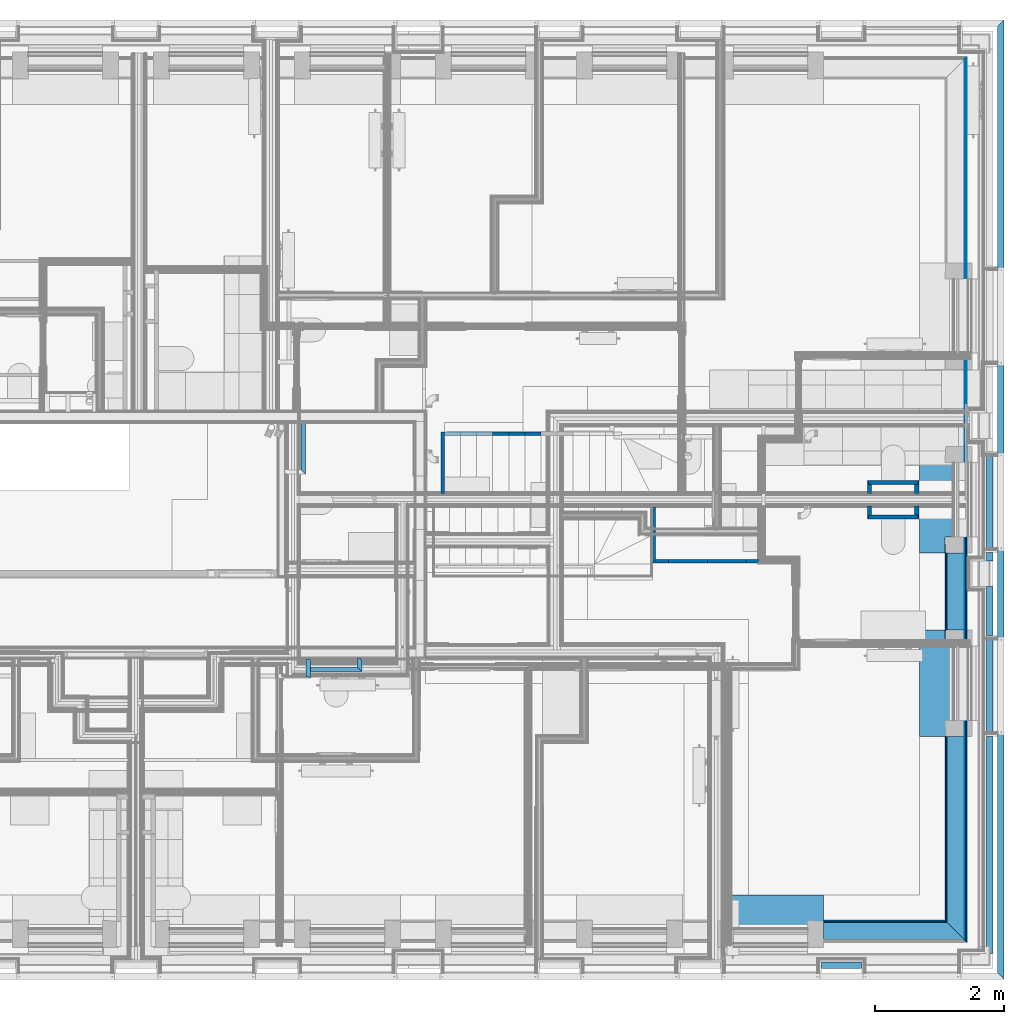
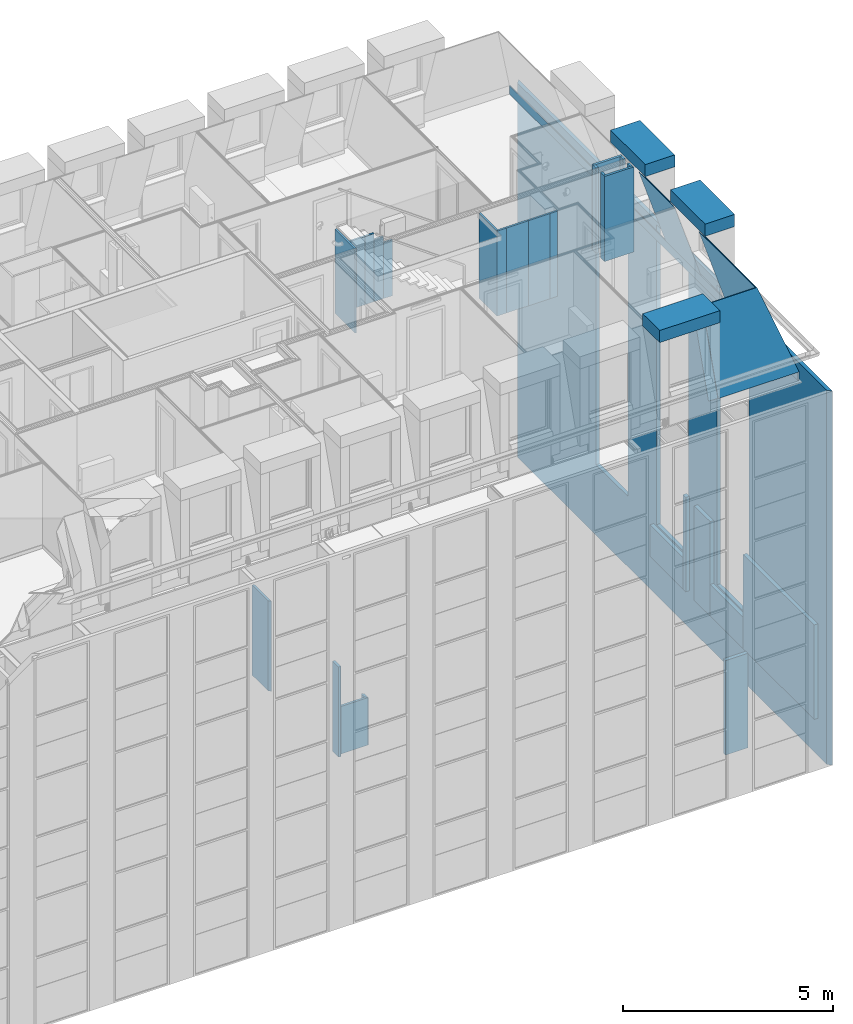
# One storey, part 7 of 169: 42 walls, 3 openings.
"""IFC2X3 building model written with IfcOpenShell, lengths in metres."""

from ifc_helpers import new_model, entity, si_unit, converted_unit, derived_unit, money_unit, direction, frame, frame_2d, origin_with_axes, place, context, subcontext, project, spatial, polyline, rectangle, outline, extrude, clip, halfspace, material, layer, layer_set, layer_usage, type_object, element, save


model = new_model("IFC2X3")

# Units and contexts
model_context = context("Model", 3, precision=1e-05, world=origin_with_axes(), true_north=direction((0.0, 1.0)))
body_context = subcontext(model_context, "Body", "Model", "MODEL_VIEW", scale=1.0)
ifc_project = project(units=[si_unit("LENGTHUNIT", "METRE"), si_unit("AREAUNIT", "SQUARE_METRE"), si_unit("VOLUMEUNIT", "CUBIC_METRE"), si_unit("ABSORBEDDOSEUNIT", "GRAY"), si_unit("AMOUNTOFSUBSTANCEUNIT", "MOLE"), si_unit("DOSEEQUIVALENTUNIT", "SIEVERT"), si_unit("ELECTRICCAPACITANCEUNIT", "FARAD"), si_unit("ELECTRICCHARGEUNIT", "COULOMB"), si_unit("ELECTRICCONDUCTANCEUNIT", "SIEMENS"), si_unit("ELECTRICCURRENTUNIT", "AMPERE"), si_unit("ELECTRICRESISTANCEUNIT", "OHM"), si_unit("ELECTRICVOLTAGEUNIT", "VOLT"), si_unit("ENERGYUNIT", "JOULE"), si_unit("FORCEUNIT", "NEWTON"), si_unit("FREQUENCYUNIT", "HERTZ"), si_unit("ILLUMINANCEUNIT", "LUX"), si_unit("INDUCTANCEUNIT", "HENRY"), si_unit("LUMINOUSFLUXUNIT", "LUMEN"), si_unit("LUMINOUSINTENSITYUNIT", "CANDELA"), si_unit("MAGNETICFLUXDENSITYUNIT", "TESLA"), si_unit("MAGNETICFLUXUNIT", "WEBER"), si_unit("MASSUNIT", "GRAM"), converted_unit("PLANEANGLEUNIT", "degree", entity("IfcReal", 0.0174532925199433), si_unit("PLANEANGLEUNIT", "RADIAN"), dimensions=[0, 0, 0, 0, 0, 0, 0]), si_unit("POWERUNIT", "WATT"), si_unit("PRESSUREUNIT", "PASCAL"), si_unit("RADIOACTIVITYUNIT", "BECQUEREL"), si_unit("SOLIDANGLEUNIT", "STERADIAN"), si_unit("THERMODYNAMICTEMPERATUREUNIT", "KELVIN"), si_unit("TIMEUNIT", "SECOND"), derived_unit("ACCELERATIONUNIT", [(si_unit("LENGTHUNIT", "METRE"), 1), (si_unit("TIMEUNIT", "SECOND"), -2)]), derived_unit("ANGULARVELOCITYUNIT", [(converted_unit("PLANEANGLEUNIT", "degree", entity("IfcReal", 0.0174532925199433), si_unit("PLANEANGLEUNIT", "RADIAN"), dimensions=[0, 0, 0, 0, 0, 0, 0]), 1), (si_unit("TIMEUNIT", "SECOND"), -1)]), derived_unit("CURVATUREUNIT", [(converted_unit("PLANEANGLEUNIT", "degree", entity("IfcReal", 0.0174532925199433), si_unit("PLANEANGLEUNIT", "RADIAN"), dimensions=[0, 0, 0, 0, 0, 0, 0]), 1), (si_unit("LENGTHUNIT", "METRE"), -1)]), derived_unit("DYNAMICVISCOSITYUNIT", [(si_unit("PRESSUREUNIT", "PASCAL"), 1), (si_unit("TIMEUNIT", "SECOND"), 1)]), derived_unit("HEATFLUXDENSITYUNIT", [(si_unit("POWERUNIT", "WATT"), 1), (si_unit("LENGTHUNIT", "METRE"), -2)]), derived_unit("HEATINGVALUEUNIT", [(si_unit("ENERGYUNIT", "JOULE"), 1), (si_unit("MASSUNIT", "GRAM"), -1)]), derived_unit("INTEGERCOUNTRATEUNIT", [(si_unit("TIMEUNIT", "SECOND"), -1)]), derived_unit("IONCONCENTRATIONUNIT", [(si_unit("MASSUNIT", "GRAM"), 1), (si_unit("VOLUMEUNIT", "CUBIC_METRE"), -1)]), derived_unit("ISOTHERMALMOISTURECAPACITYUNIT", [(si_unit("VOLUMEUNIT", "CUBIC_METRE"), 1), (si_unit("MASSUNIT", "GRAM"), -1)]), derived_unit("KINEMATICVISCOSITYUNIT", [(si_unit("AREAUNIT", "SQUARE_METRE"), 1), (si_unit("TIMEUNIT", "SECOND"), -1)]), derived_unit("LINEARFORCEUNIT", [(si_unit("FORCEUNIT", "NEWTON"), 1), (si_unit("LENGTHUNIT", "METRE"), -1)]), derived_unit("LINEARMOMENTUNIT", [(si_unit("FORCEUNIT", "NEWTON"), 1), (si_unit("LENGTHUNIT", "METRE"), -1)]), derived_unit("LINEARSTIFFNESSUNIT", [(si_unit("FORCEUNIT", "NEWTON"), 1), (si_unit("LENGTHUNIT", "METRE"), -1)]), derived_unit("LINEARVELOCITYUNIT", [(si_unit("LENGTHUNIT", "METRE"), 1), (si_unit("TIMEUNIT", "SECOND"), -1)]), derived_unit("LUMINOUSINTENSITYDISTRIBUTIONUNIT", [(si_unit("LUMINOUSINTENSITYUNIT", "CANDELA"), 1), (si_unit("LUMINOUSFLUXUNIT", "LUMEN"), -1)]), derived_unit("MASSDENSITYUNIT", [(si_unit("MASSUNIT", "GRAM"), 1), (si_unit("VOLUMEUNIT", "CUBIC_METRE"), -1)]), derived_unit("MASSFLOWRATEUNIT", [(si_unit("MASSUNIT", "GRAM"), 1), (si_unit("TIMEUNIT", "SECOND"), -1)]), derived_unit("MASSPERLENGTHUNIT", [(si_unit("MASSUNIT", "GRAM"), 1), (si_unit("LENGTHUNIT", "METRE"), -1)]), derived_unit("MODULUSOFELASTICITYUNIT", [(si_unit("FORCEUNIT", "NEWTON"), 1), (si_unit("AREAUNIT", "SQUARE_METRE"), -1)]), derived_unit("MODULUSOFLINEARSUBGRADEREACTIONUNIT", [(si_unit("FORCEUNIT", "NEWTON"), 1), (si_unit("LENGTHUNIT", "METRE"), -2)]), derived_unit("MODULUSOFROTATIONALSUBGRADEREACTIONUNIT", [(si_unit("FORCEUNIT", "NEWTON"), 1), (si_unit("LENGTHUNIT", "METRE"), 1)]), derived_unit("MODULUSOFSUBGRADEREACTIONUNIT", [(si_unit("FORCEUNIT", "NEWTON"), 1), (si_unit("VOLUMEUNIT", "CUBIC_METRE"), -1)]), derived_unit("MOISTUREDIFFUSIVITYUNIT", [(si_unit("VOLUMEUNIT", "CUBIC_METRE"), 1), (si_unit("TIMEUNIT", "SECOND"), -1)]), derived_unit("MOLECULARWEIGHTUNIT", [(si_unit("MASSUNIT", "GRAM"), 1), (si_unit("AMOUNTOFSUBSTANCEUNIT", "MOLE"), -1)]), derived_unit("PLANARFORCEUNIT", [(si_unit("FORCEUNIT", "NEWTON"), 1), (si_unit("LENGTHUNIT", "METRE"), -2)]), derived_unit("ROTATIONALFREQUENCYUNIT", [(si_unit("TIMEUNIT", "SECOND"), -1)]), derived_unit("ROTATIONALMASSUNIT", [(si_unit("MASSUNIT", "GRAM"), 1), (si_unit("LENGTHUNIT", "METRE"), 2)]), derived_unit("ROTATIONALSTIFFNESSUNIT", [(si_unit("FORCEUNIT", "NEWTON"), 1), (si_unit("LENGTHUNIT", "METRE"), 1), (converted_unit("PLANEANGLEUNIT", "degree", entity("IfcReal", 0.0174532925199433), si_unit("PLANEANGLEUNIT", "RADIAN"), dimensions=[0, 0, 0, 0, 0, 0, 0]), -1)]), derived_unit("SECTIONAREAINTEGRALUNIT", [(si_unit("LENGTHUNIT", "METRE"), 5)]), derived_unit("SECTIONMODULUSUNIT", [(si_unit("LENGTHUNIT", "METRE"), 3)]), derived_unit("SHEARMODULUSUNIT", [(si_unit("FORCEUNIT", "NEWTON"), 1), (si_unit("AREAUNIT", "SQUARE_METRE"), -1)]), derived_unit("SOUNDPOWERUNIT", [(si_unit("ENERGYUNIT", "JOULE"), 1), (si_unit("TIMEUNIT", "SECOND"), -1)]), derived_unit("SPECIFICHEATCAPACITYUNIT", [(si_unit("FORCEUNIT", "NEWTON"), 1), (si_unit("MASSUNIT", "GRAM"), -1), (si_unit("THERMODYNAMICTEMPERATUREUNIT", "KELVIN"), -1)]), derived_unit("TEMPERATUREGRADIENTUNIT", [(si_unit("THERMODYNAMICTEMPERATUREUNIT", "KELVIN"), 1), (si_unit("LENGTHUNIT", "METRE"), -1)]), derived_unit("THERMALADMITTANCEUNIT", [(si_unit("POWERUNIT", "WATT"), 1), (si_unit("AREAUNIT", "SQUARE_METRE"), -1), (si_unit("THERMODYNAMICTEMPERATUREUNIT", "KELVIN"), -1)]), derived_unit("THERMALCONDUCTANCEUNIT", [(si_unit("POWERUNIT", "WATT"), 1), (si_unit("LENGTHUNIT", "METRE"), -1), (si_unit("THERMODYNAMICTEMPERATUREUNIT", "KELVIN"), -1)]), derived_unit("THERMALEXPANSIONCOEFFICIENTUNIT", [(si_unit("THERMODYNAMICTEMPERATUREUNIT", "KELVIN"), -1)]), derived_unit("THERMALRESISTANCEUNIT", [(si_unit("AREAUNIT", "SQUARE_METRE"), 1), (si_unit("POWERUNIT", "WATT"), -1)]), derived_unit("THERMALTRANSMITTANCEUNIT", [(si_unit("POWERUNIT", "WATT"), 1), (si_unit("AREAUNIT", "SQUARE_METRE"), -1), (si_unit("THERMODYNAMICTEMPERATUREUNIT", "KELVIN"), -1)]), derived_unit("TORQUEUNIT", [(si_unit("FORCEUNIT", "NEWTON"), 1), (si_unit("LENGTHUNIT", "METRE"), 1)]), derived_unit("VAPORPERMEABILITYUNIT", [(si_unit("MASSUNIT", "GRAM"), 1), (si_unit("TIMEUNIT", "SECOND"), -1)]), derived_unit("VOLUMETRICFLOWRATEUNIT", [(si_unit("VOLUMEUNIT", "CUBIC_METRE"), 1), (si_unit("TIMEUNIT", "SECOND"), -1)]), derived_unit("WARPINGCONSTANTUNIT", [(si_unit("LENGTHUNIT", "METRE"), 6)]), derived_unit("WARPINGMOMENTUNIT", [(si_unit("FORCEUNIT", "NEWTON"), 1), (si_unit("LENGTHUNIT", "METRE"), 2)]), money_unit("GBP")], contexts=[model_context])

# Site, building, storey
site_placement = place(None, origin_with_axes())
site = spatial("IfcSite", under=ifc_project, at=site_placement, Name="Site", CompositionType="ELEMENT")
building_placement = place(site_placement, origin_with_axes())
building = spatial("IfcBuilding", under=site, at=building_placement, Name="Building01", CompositionType="ELEMENT")
storey_placement = place(building_placement, frame((0.0, 0.0, 5.15), z_axis=(0.0, 0.0, 1.0), x_axis=(1.0, 0.0, 0.0)))
storey = spatial("IfcBuildingStorey", under=building, at=storey_placement, Name="1F", CompositionType="ELEMENT", Elevation=5.15)

# Wall, openings
ifc_material_1 = material(Name="A_BSUK_WallsExternal_Brick")
ifc_layer_1 = layer(ifc_material_1, 0.1, ventilated=False)
ifc_layer_set_1 = layer_set([ifc_layer_1])
ifc_layer_usage_1 = layer_usage(ifc_layer_set_1, "AXIS2", "POSITIVE", 0.0)
wall_type_1 = type_object("IfcWallType", Name="A-Walls-ExternalBrick", PredefinedType="NOTDEFINED")
wall_1_placement = place(storey_placement, frame((26.88, 0.1, -1.18), z_axis=(0.0, 0.0, 1.0), x_axis=(0.0, 1.0, 0.0)))
wall_1 = element("IfcWallStandardCase", 1, at=wall_1_placement, inside=storey, type_object=wall_type_1, material=ifc_layer_usage_1, Name="A-Walls-ExternalBrick", ObjectType="A-Walls-ExternalBrick", context=body_context, shape_type="SweptSolid", body=[
    extrude(outline(polyline([(14.7, 0.0), (0.0, 0.0), (-0.1, -0.1), (14.8, -0.1), (14.7, 0.0)])), origin_with_axes(), (0.0, 0.0, 1.0), 10.850238),
])
opening_1_placement = place(wall_1_placement, frame((9.43718, -0.1, 2.045508), z_axis=(0.0, 0.0, 1.0), x_axis=(1.0, 0.0, 0.0)))
element("IfcOpeningElement", 2, at=opening_1_placement, cuts=wall_1, Name="Opening", ObjectType="Opening", context=body_context, shape_type="SweptSolid", body=[
    extrude(rectangle(XDim=1.52, YDim=8.7, at=frame_2d((-0.76, 4.35), x_axis=(-1.0, 0.0))), frame((0.0, 0.0, 0.0), z_axis=(0.0, 1.0, 0.0), x_axis=(-1.0, 0.0, 0.0)), (0.0, 0.0, 1.0), 0.1),
])
opening_2_placement = place(wall_1_placement, frame((3.69718, -0.1, 2.045508), z_axis=(0.0, 0.0, 1.0), x_axis=(1.0, 0.0, 0.0)))
element("IfcOpeningElement", 3, at=opening_2_placement, cuts=wall_1, Name="Opening", ObjectType="Opening", context=body_context, shape_type="SweptSolid", body=[
    extrude(rectangle(XDim=1.52, YDim=8.7, at=frame_2d((-0.76, 4.35), x_axis=(-1.0, 0.0))), frame((0.0, 0.0, 0.0), z_axis=(0.0, 1.0, 0.0), x_axis=(-1.0, 0.0, 0.0)), (0.0, 0.0, 1.0), 0.1),
])
opening_3_placement = place(wall_1_placement, frame((6.557326, -0.1, 2.050108), z_axis=(0.0, 0.0, 1.0), x_axis=(1.0, 0.0, 0.0)))
element("IfcOpeningElement", 4, at=opening_3_placement, cuts=wall_1, Name="Opening", ObjectType="Opening", context=body_context, shape_type="SweptSolid", body=[
    extrude(rectangle(XDim=1.52, YDim=8.7, at=frame_2d((-0.76, 4.35), x_axis=(-1.0, 0.0))), frame((0.0, 0.0, 0.0), z_axis=(0.0, 1.0, 0.0), x_axis=(-1.0, 0.0, 0.0)), (0.0, 0.0, 1.0), 0.1),
])

# Walls
ifc_material_2 = material(Name="A_BSUK_WallsExternal_Block")
ifc_layer_2 = layer(ifc_material_2, 0.1, ventilated=False)
ifc_layer_set_2 = layer_set([ifc_layer_2])
ifc_layer_usage_2 = layer_usage(ifc_layer_set_2, "AXIS2", "POSITIVE", 0.0)
wall_type_2 = type_object("IfcWallType", Name="A-Walls-ExternalBlock", PredefinedType="NOTDEFINED")
wall_2_placement = place(storey_placement, frame((24.767, 0.27, 0.0), z_axis=(0.0, 0.0, 1.0), x_axis=(-1.0, 0.0, 0.0)))
element("IfcWallStandardCase", 5, at=wall_2_placement, inside=storey, type_object=wall_type_2, material=ifc_layer_usage_2, Name="A-Walls-ExternalBlock", ObjectType="A-Walls-ExternalBlock", context=body_context, shape_type="SweptSolid", body=[
    extrude(rectangle(XDim=0.624, YDim=0.1, at=frame_2d((0.312, 0.05), x_axis=(-1.0, 0.0))), origin_with_axes(), (0.0, 0.0, 1.0), 2.74),
])
wall_3_placement = place(storey_placement, frame((26.71, 3.77418, 0.0), z_axis=(0.0, 0.0, 1.0), x_axis=(0.0, -1.0, 0.0)))
element("IfcWallStandardCase", 6, at=wall_3_placement, inside=storey, type_object=wall_type_2, material=ifc_layer_usage_2, Name="A-Walls-ExternalBlock", ObjectType="A-Walls-ExternalBlock", context=body_context, shape_type="SweptSolid", body=[
    extrude(rectangle(XDim=0.1, YDim=3.37418, at=frame_2d((1.68709, 0.05), x_axis=(0.0, -1.0))), origin_with_axes(), (0.0, 0.0, 1.0), 2.74),
])
wall_4_placement = place(storey_placement, frame((26.71, 6.634304, 0.0), z_axis=(0.0, 0.0, 1.0), x_axis=(0.0, -1.0, 0.0)))
element("IfcWallStandardCase", 7, at=wall_4_placement, inside=storey, type_object=wall_type_2, material=ifc_layer_usage_2, Name="A-Walls-ExternalBlock", ObjectType="A-Walls-ExternalBlock", context=body_context, shape_type="SweptSolid", body=[
    extrude(rectangle(XDim=0.1, YDim=0.134304, at=frame_2d((0.067152, 0.05), x_axis=(0.0, -1.0))), origin_with_axes(), (0.0, 0.0, 1.0), 2.74),
])
wall_5_placement = place(storey_placement, frame((26.71, 6.1, 0.0), z_axis=(0.0, 0.0, 1.0), x_axis=(0.0, -1.0, 0.0)))
element("IfcWallStandardCase", 8, at=wall_5_placement, inside=storey, type_object=wall_type_2, material=ifc_layer_usage_2, Name="A-Walls-ExternalBlock", ObjectType="A-Walls-ExternalBlock", context=body_context, shape_type="SweptSolid", body=[
    extrude(rectangle(XDim=0.75982, YDim=0.1, at=frame_2d((0.37991, 0.05), x_axis=(-1.0, 0.0))), origin_with_axes(), (0.0, 0.0, 1.0), 2.74),
])
wall_6_placement = place(storey_placement, frame((26.71, 5.34018, 0.0), z_axis=(0.0, 0.0, 1.0), x_axis=(0.0, -1.0, 0.0)))
element("IfcWallStandardCase", 9, at=wall_6_placement, inside=storey, type_object=wall_type_2, material=ifc_layer_usage_2, Name="A-Walls-ExternalBlock", ObjectType="A-Walls-ExternalBlock", context=body_context, shape_type="SweptSolid", body=[
    extrude(rectangle(XDim=1.566, YDim=0.1, at=frame_2d((0.783, 0.05), x_axis=(1.0, 0.0))), origin_with_axes(), (0.0, 0.0, 1.0), 0.915),
])
wall_7_placement = place(storey_placement, frame((26.71, 8.200304, 0.0), z_axis=(0.0, 0.0, 1.0), x_axis=(0.0, -1.0, 0.0)))
element("IfcWallStandardCase", 10, at=wall_7_placement, inside=storey, type_object=wall_type_2, material=ifc_layer_usage_2, Name="A-Walls-ExternalBlock", ObjectType="A-Walls-ExternalBlock", context=body_context, shape_type="SweptSolid", body=[
    extrude(rectangle(XDim=1.565978, YDim=0.1, at=frame_2d((0.782989, 0.05), x_axis=(1.0, 0.0))), origin_with_axes(), (0.0, 0.0, 1.0), 0.915),
])
ifc_material_3 = material(Name="A_BSUK_WallsInternal")
ifc_layer_3 = layer(ifc_material_3, 0.025, ventilated=False)
ifc_layer_set_3 = layer_set([ifc_layer_3])
ifc_layer_usage_3 = layer_usage(ifc_layer_set_3, "AXIS2", "POSITIVE", 0.0)
wall_type_3 = type_object("IfcWallType", Name="A-Walls-Internal", PredefinedType="NOTDEFINED")
wall_8_placement = place(storey_placement, frame((26.4012, 7.45, 9.83), z_axis=(0.0, 0.0, 1.0), x_axis=(0.0, -1.0, 0.0)))
element("IfcWallStandardCase", 11, at=wall_8_placement, inside=storey, type_object=wall_type_3, material=ifc_layer_usage_3, Name="7C", ObjectType="A-Walls-Internal", context=body_context, shape_type="SweptSolid", body=[
    extrude(outline(polyline([(6.8712, 0.0), (0.0, 0.0), (0.0, -0.025), (6.8462, -0.025), (6.8712, 0.0)])), origin_with_axes(), (0.0, 0.0, 1.0), 0.25),
])
ifc_layer_4 = layer(ifc_material_3, 0.05, ventilated=False)
ifc_layer_set_4 = layer_set([ifc_layer_4])
ifc_layer_usage_4 = layer_usage(ifc_layer_set_4, "AXIS2", "POSITIVE", 0.0)
wall_9_placement = place(storey_placement, frame((18.289976, 7.549915, 9.83), z_axis=(0.0, 0.0, 1.0), x_axis=(0.0, 1.0, 0.0)))
element("IfcWallStandardCase", 12, at=wall_9_placement, inside=storey, type_object=wall_type_3, material=ifc_layer_usage_4, Name="A-Walls-Internal", ObjectType="A-Walls-Internal", context=body_context, shape_type="SweptSolid", body=[
    extrude(rectangle(XDim=0.05, YDim=0.95, at=frame_2d((0.475, 0.025), x_axis=(0.0, -1.0))), origin_with_axes(), (0.0, 0.0, 1.0), 2.443),
])
wall_10_placement = place(storey_placement, frame((19.039976, 8.449915, 9.83), z_axis=(0.0, 0.0, 1.0), x_axis=(1.0, 0.0, 0.0)))
element("IfcWallStandardCase", 13, at=wall_10_placement, inside=storey, type_object=wall_type_3, material=ifc_layer_usage_4, Name="A-Walls-Internal", ObjectType="A-Walls-Internal", context=body_context, shape_type="SweptSolid", body=[
    extrude(rectangle(XDim=0.25, YDim=0.05, at=frame_2d((0.125, 0.025), x_axis=(1.0, 0.0))), origin_with_axes(), (0.0, 0.0, 1.0), 1.98),
])
wall_11_placement = place(storey_placement, frame((18.289976, 8.449915, 9.83), z_axis=(0.0, 0.0, 1.0), x_axis=(1.0, 0.0, 0.0)))
element("IfcWallStandardCase", 14, at=wall_11_placement, inside=storey, type_object=wall_type_3, material=ifc_layer_usage_4, Name="A-Walls-Internal", ObjectType="A-Walls-Internal", context=body_context, shape_type="SweptSolid", body=[
    extrude(rectangle(XDim=0.05, YDim=0.75, at=frame_2d((0.375, 0.025), x_axis=(0.0, -1.0))), origin_with_axes(), (0.0, 0.0, 1.0), 1.98),
])
wall_12_placement = place(storey_placement, frame((19.289976, 8.449915, 9.83), z_axis=(0.0, 0.0, 1.0), x_axis=(1.0, 0.0, 0.0)))
element("IfcWallStandardCase", 15, at=wall_12_placement, inside=storey, type_object=wall_type_3, material=ifc_layer_usage_4, Name="A-Walls-Internal", ObjectType="A-Walls-Internal", context=body_context, shape_type="SweptSolid", body=[
    extrude(rectangle(XDim=0.25, YDim=0.05, at=frame_2d((0.125, 0.025), x_axis=(1.0, 0.0))), origin_with_axes(), (0.0, 0.0, 1.0), 1.8),
])
wall_13_placement = place(storey_placement, frame((19.539976, 8.449915, 9.83), z_axis=(0.0, 0.0, 1.0), x_axis=(1.0, 0.0, 0.0)))
element("IfcWallStandardCase", 16, at=wall_13_placement, inside=storey, type_object=wall_type_3, material=ifc_layer_usage_4, Name="A-Walls-Internal", ObjectType="A-Walls-Internal", context=body_context, shape_type="SweptSolid", body=[
    extrude(rectangle(XDim=0.25, YDim=0.05, at=frame_2d((0.125, 0.025), x_axis=(1.0, 0.0))), origin_with_axes(), (0.0, 0.0, 1.0), 1.62),
])
wall_14_placement = place(storey_placement, frame((21.51844, 7.334915, 9.83), z_axis=(0.0, 0.0, 1.0), x_axis=(0.0, -1.0, 0.0)))
element("IfcWallStandardCase", 17, at=wall_14_placement, inside=storey, type_object=wall_type_3, material=ifc_layer_usage_4, Name="A-Walls-Internal", ObjectType="A-Walls-Internal", context=body_context, shape_type="SweptSolid", body=[
    extrude(outline(polyline([(0.81483, 0.05), (0.0, 0.05), (0.0, 0.0), (0.86483, 0.0), (0.81483, 0.05)])), origin_with_axes(), (0.0, 0.0, 1.0), 2.468),
])
wall_15_placement = place(storey_placement, frame((21.51844, 6.470085, 9.83), z_axis=(0.0, 0.0, 1.0), x_axis=(1.0, 0.0, 0.0)))
element("IfcWallStandardCase", 18, at=wall_15_placement, inside=storey, type_object=wall_type_3, material=ifc_layer_usage_4, Name="A-Walls-Internal", ObjectType="A-Walls-Internal", context=body_context, shape_type="SweptSolid", body=[
    extrude(outline(polyline([(0.05, 0.05), (0.0, 0.0), (0.255191, 0.0), (0.255191, 0.05), (0.05, 0.05)])), origin_with_axes(), (0.0, 0.0, 1.0), 2.468),
])
for number, where, z_axis, x_axis, name in (
    (19, (21.773631, 6.470085, 9.83), (0.0, 0.0, 1.0), (1.0, 0.0, 0.0), "A-Walls-Internal"),
    (20, (22.373631, 6.470085, 9.83), (0.0, 0.0, 1.0), (1.0, 0.0, 0.0), "A-Walls-Internal"),
):
    element("IfcWallStandardCase", number, at=place(storey_placement, frame(where, z_axis=z_axis, x_axis=x_axis)), inside=storey, type_object=wall_type_3, material=ifc_layer_usage_4, Name=name, ObjectType="A-Walls-Internal", context=body_context, shape_type="SweptSolid", body=[
        extrude(rectangle(XDim=0.6, YDim=0.05, at=frame_2d((0.3, 0.025), x_axis=(1.0, 0.0))), origin_with_axes(), (0.0, 0.0, 1.0), 2.468),
    ])
wall_16_placement = place(storey_placement, frame((22.973631, 6.470085, 9.83), z_axis=(0.0, 0.0, 1.0), x_axis=(1.0, 0.0, 0.0)))
element("IfcWallStandardCase", 21, at=wall_16_placement, inside=storey, type_object=wall_type_3, material=ifc_layer_usage_4, Name="A-Walls-Internal", ObjectType="A-Walls-Internal", context=body_context, shape_type="SweptSolid", body=[
    extrude(rectangle(XDim=0.205191, YDim=0.05, at=frame_2d((0.102595, 0.025), x_axis=(-1.0, 0.0))), origin_with_axes(), (0.0, 0.0, 1.0), 2.468),
])
ifc_layer_5 = layer(ifc_material_3, 0.015, ventilated=False)
ifc_layer_set_5 = layer_set([ifc_layer_5])
ifc_layer_usage_5 = layer_usage(ifc_layer_set_5, "AXIS2", "POSITIVE", 0.0)
wall_17_placement = place(storey_placement, frame((26.4012, 14.3062, 9.83), z_axis=(0.0, 0.0, 1.0), x_axis=(0.0, -1.0, 0.0)))
element("IfcWallStandardCase", 22, at=wall_17_placement, inside=storey, type_object=wall_type_3, material=ifc_layer_usage_5, Name="7C", ObjectType="A-Walls-Internal", context=body_context, shape_type="SweptSolid", body=[
    extrude(rectangle(XDim=13.7124, YDim=0.015, at=frame_2d((6.8562, -0.0075), x_axis=(-1.0, 0.0))), origin_with_axes(), (0.0, 0.0, 1.0), 0.25),
])
wall_18_placement = place(storey_placement, frame((26.3862, 14.2912, 9.83), z_axis=(0.0, 0.0, 1.0), x_axis=(0.0, -1.0, 0.0)))
element("IfcWallStandardCase", 23, at=wall_18_placement, inside=storey, type_object=wall_type_3, material=ifc_layer_usage_5, Name="7C", ObjectType="A-Walls-Internal", context=body_context, shape_type="SweptSolid", body=[
    extrude(rectangle(XDim=13.6824, YDim=0.015, at=frame_2d((6.8412, -0.0075), x_axis=(-1.0, 0.0))), origin_with_axes(), (0.0, 0.0, 1.0), 0.25),
])
ifc_material_4 = material(Name="A_BSUK_Walls_Timber")
ifc_layer_6 = layer(ifc_material_4, 0.015, ventilated=False)
ifc_material_5 = material(Name="A_BSUK_OpeningsClearance")
ifc_layer_7 = layer(ifc_material_5, 0.05, ventilated=False)
ifc_layer_set_6 = layer_set([ifc_layer_6, ifc_layer_7])
ifc_layer_usage_6 = layer_usage(ifc_layer_set_6, "AXIS2", "POSITIVE", 0.0)
wall_type_4 = type_object("IfcWallType", Name="SHE_A-Walls_Type05c_PreWallShell_65mm", PredefinedType="NOTDEFINED")
wall_19_placement = place(storey_placement, frame((16.9425, 4.845, 0.0), z_axis=(0.0, 0.0, 1.0), x_axis=(0.0, 1.0, 0.0)))
element("IfcWallStandardCase", 24, at=wall_19_placement, inside=storey, type_object=wall_type_4, material=ifc_layer_usage_6, Name="5C", ObjectType="SHE_A-Walls_Type05c_PreWallShell_65mm", context=body_context, shape_type="SweptSolid", body=[
    extrude(outline(polyline([(0.12, -0.05), (0.15, -0.05), (0.15, 0.0), (0.0, 0.0), (-0.065, -0.065), (0.12, -0.065), (0.12, -0.05)])), origin_with_axes(), (0.0, 0.0, 1.0), 1.375),
])
wall_20_placement = place(storey_placement, frame((16.2075, 4.845, 0.0), z_axis=(0.0, 0.0, 1.0), x_axis=(1.0, 0.0, 0.0)))
element("IfcWallStandardCase", 25, at=wall_20_placement, inside=storey, type_object=wall_type_4, material=ifc_layer_usage_6, Name="5C", ObjectType="SHE_A-Walls_Type05c_PreWallShell_65mm", context=body_context, shape_type="SweptSolid", body=[
    extrude(outline(polyline([(0.735, 0.0), (0.0, 0.0), (0.0, -0.065), (0.8, -0.065), (0.735, 0.0)])), origin_with_axes(), (0.0, 0.0, 1.0), 1.375),
])
wall_21_placement = place(storey_placement, frame((16.065, 7.915, 0.0), z_axis=(0.0, 0.0, 1.0), x_axis=(0.0, 1.0, 0.0)))
element("IfcWallStandardCase", 26, at=wall_21_placement, inside=storey, type_object=wall_type_4, material=ifc_layer_usage_6, Name="5C", ObjectType="SHE_A-Walls_Type05c_PreWallShell_65mm", context=body_context, shape_type="SweptSolid", body=[
    extrude(outline(polyline([(0.72, -0.05), (0.75, -0.05), (0.75, 0.0), (0.0, 0.0), (-0.065, -0.065), (0.72, -0.065), (0.72, -0.05)])), origin_with_axes(), (0.0, 0.0, 1.0), 2.615),
])
wall_22_placement = place(storey_placement, frame((16.1425, 4.695, 0.0), z_axis=(0.0, 0.0, 1.0), x_axis=(0.0, 1.0, 0.0)))
element("IfcWallStandardCase", 27, at=wall_22_placement, inside=storey, type_object=wall_type_4, material=ifc_layer_usage_6, Name="5C", ObjectType="SHE_A-Walls_Type05c_PreWallShell_65mm", context=body_context, shape_type="SweptSolid", body=[
    extrude(outline(polyline([(0.285, 0.0), (0.0, 0.0), (0.0, -0.05), (-0.015, -0.05), (-0.015, -0.065), (0.285, -0.065), (0.285, 0.0)])), origin_with_axes(), (0.0, 0.0, 1.0), 2.615),
])
ifc_layer_set_7 = layer_set([ifc_layer_7, ifc_layer_6])
ifc_layer_usage_7 = layer_usage(ifc_layer_set_7, "AXIS2", "POSITIVE", 0.0)
wall_23_placement = place(storey_placement, frame((24.873821, 7.684913, 9.83), z_axis=(0.0, 0.0, 1.0), x_axis=(1.0, 0.0, 0.0)))
element("IfcWallStandardCase", 28, at=wall_23_placement, inside=storey, type_object=wall_type_4, material=ifc_layer_usage_7, Name="5C", ObjectType="SHE_A-Walls_Type05c_PreWallShell_65mm", context=body_context, shape_type="SweptSolid", body=[
    extrude(outline(polyline([(0.77, 0.05), (0.785, 0.05), (0.785, 0.065), (-0.015, 0.065), (-0.015, 0.05), (0.0, 0.05), (0.0, 0.0), (0.77, 0.0), (0.77, 0.05)])), origin_with_axes(), (0.0, 0.0, 1.0), 2.468),
])
wall_24_placement = place(storey_placement, frame((24.923821, 7.549915, 9.83), z_axis=(0.0, 0.0, 1.0), x_axis=(0.0, 1.0, 0.0)))
element("IfcWallStandardCase", 29, at=wall_24_placement, inside=storey, type_object=wall_type_4, material=ifc_layer_usage_7, Name="5C", ObjectType="SHE_A-Walls_Type05c_PreWallShell_65mm", context=body_context, shape_type="SweptSolid", body=[
    extrude(outline(polyline([(0.134998, 0.05), (0.184998, 0.05), (0.184998, 0.065), (0.0, 0.065), (0.0, 0.0), (0.134998, 0.0), (0.134998, 0.05)])), origin_with_axes(), (0.0, 0.0, 1.0), 2.468),
])
wall_25_placement = place(storey_placement, frame((25.593821, 7.549915, 9.83), z_axis=(0.0, 0.0, 1.0), x_axis=(0.0, 1.0, 0.0)))
element("IfcWallStandardCase", 30, at=wall_25_placement, inside=storey, type_object=wall_type_4, material=ifc_layer_usage_6, Name="5C", ObjectType="SHE_A-Walls_Type05c_PreWallShell_65mm", context=body_context, shape_type="SweptSolid", body=[
    extrude(outline(polyline([(0.134998, -0.05), (0.134998, 0.0), (0.0, 0.0), (0.0, -0.065), (0.184998, -0.065), (0.184998, -0.05), (0.134998, -0.05)])), origin_with_axes(), (0.0, 0.0, 1.0), 2.468),
])
placement_1 = place(storey_placement, frame((24.873821, 7.214966, 9.83), z_axis=(0.0, 0.0, 1.0), x_axis=(1.0, 0.0, 0.0)))
element("IfcWallStandardCase", 31, at=placement_1, inside=storey, type_object=wall_type_4, material=ifc_layer_usage_6, Name="5C", ObjectType="SHE_A-Walls_Type05c_PreWallShell_65mm", context=body_context, shape_type="SweptSolid", body=[
    extrude(outline(polyline([(0.77, -0.05), (0.77, 0.0), (0.0, 0.0), (0.0, -0.05), (-0.015, -0.05), (-0.015, -0.065), (0.785, -0.065), (0.785, -0.05), (0.77, -0.05)])), origin_with_axes(), (0.0, 0.0, 1.0), 2.468),
])
placement_2 = place(storey_placement, frame((24.923821, 7.349915, 9.83), z_axis=(0.0, 0.0, 1.0), x_axis=(0.0, -1.0, 0.0)))
element("IfcWallStandardCase", 32, at=placement_2, inside=storey, type_object=wall_type_4, material=ifc_layer_usage_6, Name="5C", ObjectType="SHE_A-Walls_Type05c_PreWallShell_65mm", context=body_context, shape_type="SweptSolid", body=[
    extrude(outline(polyline([(0.134949, -0.05), (0.134949, 0.0), (0.0, 0.0), (0.0, -0.065), (0.184949, -0.065), (0.184949, -0.05), (0.134949, -0.05)])), origin_with_axes(), (0.0, 0.0, 1.0), 2.468),
])
placement_3 = place(storey_placement, frame((25.593821, 7.349915, 9.83), z_axis=(0.0, 0.0, 1.0), x_axis=(0.0, -1.0, 0.0)))
element("IfcWallStandardCase", 33, at=placement_3, inside=storey, type_object=wall_type_4, material=ifc_layer_usage_7, Name="5C", ObjectType="SHE_A-Walls_Type05c_PreWallShell_65mm", context=body_context, shape_type="SweptSolid", body=[
    extrude(outline(polyline([(0.134949, 0.05), (0.184949, 0.05), (0.184949, 0.065), (0.0, 0.065), (0.0, 0.0), (0.134949, 0.0), (0.134949, 0.05)])), origin_with_axes(), (0.0, 0.0, 1.0), 2.468),
])
element("IfcWallStandardCase", 34, at=placement_1, inside=storey, type_object=wall_type_4, material=ifc_layer_usage_6, Name="5C", ObjectType="SHE_A-Walls_Type05c_PreWallShell_65mm", context=body_context, shape_type="SweptSolid", body=[
    extrude(outline(polyline([(0.77, -0.05), (0.77, 0.0), (0.0, 0.0), (0.0, -0.05), (-0.015, -0.05), (-0.015, -0.065), (0.785, -0.065), (0.785, -0.05), (0.77, -0.05)])), origin_with_axes(), (0.0, 0.0, 1.0), 2.468),
])
element("IfcWallStandardCase", 35, at=placement_2, inside=storey, type_object=wall_type_4, material=ifc_layer_usage_6, Name="5C", ObjectType="SHE_A-Walls_Type05c_PreWallShell_65mm", context=body_context, shape_type="SweptSolid", body=[
    extrude(outline(polyline([(0.134949, -0.05), (0.134949, 0.0), (0.0, 0.0), (0.0, -0.065), (0.184949, -0.065), (0.184949, -0.05), (0.134949, -0.05)])), origin_with_axes(), (0.0, 0.0, 1.0), 2.468),
])
element("IfcWallStandardCase", 36, at=placement_3, inside=storey, type_object=wall_type_4, material=ifc_layer_usage_7, Name="5C", ObjectType="SHE_A-Walls_Type05c_PreWallShell_65mm", context=body_context, shape_type="SweptSolid", body=[
    extrude(outline(polyline([(0.134949, 0.05), (0.184949, 0.05), (0.184949, 0.065), (0.0, 0.065), (0.0, 0.0), (0.134949, 0.0), (0.134949, 0.05)])), origin_with_axes(), (0.0, 0.0, 1.0), 2.468),
])
ifc_material_6 = material(Name="A_BSUK_Roofs")
wall_type_5 = type_object("IfcWallType", Name="A-Walls-ExternalBlock", PredefinedType="NOTDEFINED")
wall_32_placement = place(storey_placement, frame((22.530024, 1.31, 12.679998), z_axis=(1.0, 0.0, 0.0), x_axis=(0.0, -1.0, 0.0)))
element("IfcWall", 37, at=wall_32_placement, inside=storey, type_object=wall_type_5, material=ifc_material_6, Name="7C", ObjectType="A-Walls-ExternalBlock", context=body_context, shape_type="SweptSolid", body=[
    extrude(rectangle(XDim=0.81, YDim=0.349999, at=frame_2d((0.405, 0.174999), x_axis=(1.0, 0.0))), origin_with_axes(), (0.0, 0.0, 1.0), 1.649951),
])
wall_33_placement = place(storey_placement, frame((26.480061, 8.274915, 12.679998), z_axis=(0.0, -1.0, 0.0), x_axis=(-1.0, 0.0, 0.0)))
element("IfcWall", 38, at=wall_33_placement, inside=storey, type_object=wall_type_5, material=ifc_material_6, Name="7C", ObjectType="A-Walls-ExternalBlock", context=body_context, shape_type="SweptSolid", body=[
    extrude(rectangle(XDim=0.81, YDim=0.349999, at=frame_2d((0.405, 0.174999), x_axis=(1.0, 0.0))), origin_with_axes(), (0.0, 0.0, 1.0), 1.65),
])
wall_34_placement = place(storey_placement, frame((26.480061, 5.424915, 12.679999), z_axis=(0.0, -1.0, 0.0), x_axis=(-1.0, 0.0, 0.0)))
element("IfcWall", 39, at=wall_34_placement, inside=storey, type_object=wall_type_5, material=ifc_material_6, Name="7C", ObjectType="A-Walls-ExternalBlock", context=body_context, shape_type="SweptSolid", body=[
    extrude(rectangle(XDim=0.81, YDim=0.35, at=frame_2d((0.405, 0.175), x_axis=(1.0, 0.0))), origin_with_axes(), (0.0, 0.0, 1.0), 1.65),
])
wall_type_6 = type_object("IfcWallType", Name="A-Walls-Internal", PredefinedType="NOTDEFINED")
wall_35_placement = place(storey_placement, frame((26.4012, 3.774915, 10.08), z_axis=(-0.30901699, 0.0, 0.95105652), x_axis=(0.0, -1.0, 0.0)))
element("IfcWall", 40, at=wall_35_placement, inside=storey, type_object=wall_type_6, material=ifc_material_3, Name="7C", ObjectType="A-Walls-Internal", context=body_context, shape_type="Clipping", body=[
    clip(extrude(outline(polyline([(3.196115, 0.0), (0.0, 0.0), (0.0, -0.015), (3.181849, -0.015), (3.196115, 0.0)])), origin_with_axes(), (0.0, 0.0, 1.0), 2.373987), halfspace(frame((1.598058, -1.519843, 0.493827), z_axis=(-0.70710678, 0.67249851, -0.21850801), x_axis=(-0.68915176, -0.72461704, 0.0)), True)),
])
wall_36_placement = place(storey_placement, frame((26.4012, 0.5788, 10.08), z_axis=(0.0, 0.30901699, 0.95105652), x_axis=(-1.0, 0.0, 0.0)))
element("IfcWall", 41, at=wall_36_placement, inside=storey, type_object=wall_type_6, material=ifc_material_3, Name="7C", ObjectType="A-Walls-Internal", context=body_context, shape_type="Clipping", body=[
    clip(extrude(outline(polyline([(2.221224, 0.0), (0.0, 0.0), (0.014266, -0.015), (2.221224, -0.015), (2.221224, 0.0)])), origin_with_axes(), (0.0, 0.0, 1.0), 2.373987), halfspace(frame((0.0, 0.0, 0.0), z_axis=(0.70710678, 0.67249851, -0.21850801), x_axis=(-0.68915176, 0.72461704, 0.0)), True)),
])
wall_37_placement = place(storey_placement, frame((26.4012, 6.624964, 10.08), z_axis=(-0.30901699, 0.0, 0.95105652), x_axis=(0.0, -1.0, 0.0)))
element("IfcWall", 42, at=wall_37_placement, inside=storey, type_object=wall_type_6, material=ifc_material_3, Name="7C", ObjectType="A-Walls-Internal", context=body_context, shape_type="SweptSolid", body=[
    extrude(rectangle(XDim=1.200049, YDim=0.015, at=frame_2d((0.600024, -0.0075), x_axis=(-1.0, 0.0))), origin_with_axes(), (0.0, 0.0, 1.0), 2.373987),
])
wall_38_placement = place(storey_placement, frame((26.385572, 0.594428, 10.079557), z_axis=(0.0, 0.30901699, 0.95105652), x_axis=(-1.0, 0.0, 0.0)))
element("IfcWall", 43, at=wall_38_placement, inside=storey, type_object=wall_type_6, material=ifc_material_3, Name="7C", ObjectType="A-Walls-Internal", context=body_context, shape_type="Clipping", body=[
    clip(extrude(outline(polyline([(2.205596, 0.0), (0.0, 0.0), (0.014266, -0.015), (2.455596, -0.015), (2.205596, 0.0)])), origin_with_axes(), (0.0, 0.0, 1.0), 2.373987), halfspace(frame((0.0, 0.0, 0.0), z_axis=(0.70710678, 0.67249851, -0.21850801), x_axis=(-0.68915176, 0.72461704, 0.0)), True)),
])
wall_39_placement = place(storey_placement, frame((26.385572, 3.774964, 10.079557), z_axis=(-0.30901699, 0.0, 0.95105652), x_axis=(0.0, -1.0, 0.0)))
element("IfcWall", 44, at=wall_39_placement, inside=storey, type_object=wall_type_6, material=ifc_material_3, Name="7C", ObjectType="A-Walls-Internal", context=body_context, shape_type="Clipping", body=[
    clip(extrude(outline(polyline([(3.180536, 0.0), (0.0, 0.0), (-0.25, -0.015), (3.16627, -0.015), (3.180536, 0.0)])), origin_with_axes(), (0.0, 0.0, 1.0), 2.373987), halfspace(frame((1.590268, -1.512435, 0.49142), z_axis=(-0.70710678, 0.67249851, -0.21850801), x_axis=(-0.68915176, -0.72461704, 0.0)), True)),
])
wall_40_placement = place(storey_placement, frame((26.385572, 6.624964, 10.079557), z_axis=(-0.30901699, 0.0, 0.95105652), x_axis=(0.0, -1.0, 0.0)))
element("IfcWall", 45, at=wall_40_placement, inside=storey, type_object=wall_type_6, material=ifc_material_3, Name="7C", ObjectType="A-Walls-Internal", context=body_context, shape_type="SweptSolid", body=[
    extrude(outline(polyline([(1.200049, 0.0), (0.0, 0.0), (-0.25, -0.015), (1.450049, -0.015), (1.200049, 0.0)])), origin_with_axes(), (0.0, 0.0, 1.0), 2.373987),
])

save(model, "model.ifc")
